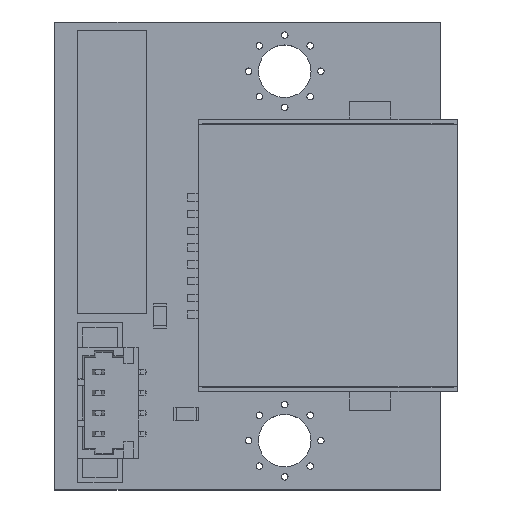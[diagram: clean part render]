
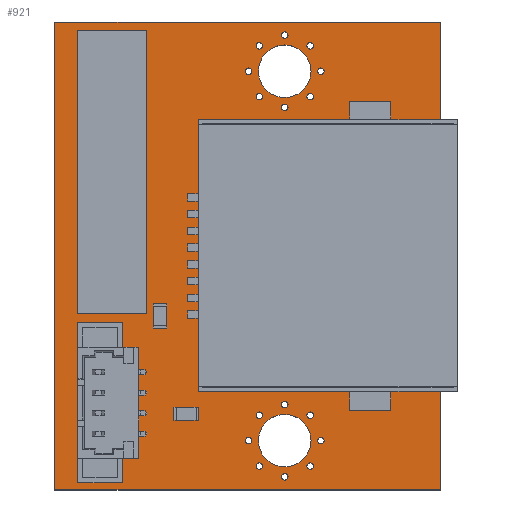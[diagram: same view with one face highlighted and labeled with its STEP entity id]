
A CAD part, top view. The second image highlights one B-rep face of the part: STEP entity #921.
In plain terms, the highlighted planar face has unit normal (0, 0, 1).
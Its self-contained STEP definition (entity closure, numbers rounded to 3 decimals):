
#72 = VERTEX_POINT('',#73);
#73 = CARTESIAN_POINT('',(0.,0.,1.517));
#79 = EDGE_CURVE('',#72,#80,#82,.T.);
#80 = VERTEX_POINT('',#81);
#81 = CARTESIAN_POINT('',(23.5,0.,1.517));
#82 = LINE('',#83,#84);
#83 = CARTESIAN_POINT('',(0.,0.,1.517));
#84 = VECTOR('',#85,1.);
#85 = DIRECTION('',(1.,0.,0.));
#110 = EDGE_CURVE('',#80,#111,#113,.T.);
#111 = VERTEX_POINT('',#112);
#112 = CARTESIAN_POINT('',(23.5,28.5,1.517));
#113 = LINE('',#114,#115);
#114 = CARTESIAN_POINT('',(23.5,0.,1.517));
#115 = VECTOR('',#116,1.);
#116 = DIRECTION('',(0.,1.,0.));
#141 = EDGE_CURVE('',#111,#142,#144,.T.);
#142 = VERTEX_POINT('',#143);
#143 = CARTESIAN_POINT('',(0.,28.5,1.517));
#144 = LINE('',#145,#146);
#145 = CARTESIAN_POINT('',(23.5,28.5,1.517));
#146 = VECTOR('',#147,1.);
#147 = DIRECTION('',(-1.,0.,0.));
#172 = EDGE_CURVE('',#142,#72,#173,.T.);
#173 = LINE('',#174,#175);
#174 = CARTESIAN_POINT('',(0.,28.5,1.517));
#175 = VECTOR('',#176,1.);
#176 = DIRECTION('',(0.,-1.,0.));
#196 = VERTEX_POINT('',#197);
#197 = CARTESIAN_POINT('',(12.65,1.45,1.517));
#203 = EDGE_CURVE('',#196,#196,#204,.T.);
#204 = CIRCLE('',#205,0.2);
#205 = AXIS2_PLACEMENT_3D('',#206,#207,#208);
#206 = CARTESIAN_POINT('',(12.45,1.45,1.517));
#207 = DIRECTION('',(0.,0.,1.));
#208 = DIRECTION('',(1.,0.,-0.));
#229 = VERTEX_POINT('',#230);
#230 = CARTESIAN_POINT('',(12.,3.,1.517));
#236 = EDGE_CURVE('',#229,#229,#237,.T.);
#237 = CIRCLE('',#238,0.2);
#238 = AXIS2_PLACEMENT_3D('',#239,#240,#241);
#239 = CARTESIAN_POINT('',(11.8,3.,1.517));
#240 = DIRECTION('',(0.,0.,1.));
#241 = DIRECTION('',(1.,0.,-0.));
#262 = VERTEX_POINT('',#263);
#263 = CARTESIAN_POINT('',(15.6,3.,1.517));
#269 = EDGE_CURVE('',#262,#262,#270,.T.);
#270 = CIRCLE('',#271,1.6);
#271 = AXIS2_PLACEMENT_3D('',#272,#273,#274);
#272 = CARTESIAN_POINT('',(14.,3.,1.517));
#273 = DIRECTION('',(0.,0.,1.));
#274 = DIRECTION('',(1.,0.,-0.));
#295 = VERTEX_POINT('',#296);
#296 = CARTESIAN_POINT('',(12.65,4.55,1.517));
#302 = EDGE_CURVE('',#295,#295,#303,.T.);
#303 = CIRCLE('',#304,0.2);
#304 = AXIS2_PLACEMENT_3D('',#305,#306,#307);
#305 = CARTESIAN_POINT('',(12.45,4.55,1.517));
#306 = DIRECTION('',(0.,0.,1.));
#307 = DIRECTION('',(1.,0.,-0.));
#328 = VERTEX_POINT('',#329);
#329 = CARTESIAN_POINT('',(14.2,5.2,1.517));
#335 = EDGE_CURVE('',#328,#328,#336,.T.);
#336 = CIRCLE('',#337,0.2);
#337 = AXIS2_PLACEMENT_3D('',#338,#339,#340);
#338 = CARTESIAN_POINT('',(14.,5.2,1.517));
#339 = DIRECTION('',(0.,0.,1.));
#340 = DIRECTION('',(1.,0.,-0.));
#361 = VERTEX_POINT('',#362);
#362 = CARTESIAN_POINT('',(12.65,23.95,1.517));
#368 = EDGE_CURVE('',#361,#361,#369,.T.);
#369 = CIRCLE('',#370,0.2);
#370 = AXIS2_PLACEMENT_3D('',#371,#372,#373);
#371 = CARTESIAN_POINT('',(12.45,23.95,1.517));
#372 = DIRECTION('',(0.,0.,1.));
#373 = DIRECTION('',(1.,0.,-0.));
#394 = VERTEX_POINT('',#395);
#395 = CARTESIAN_POINT('',(12.,25.5,1.517));
#401 = EDGE_CURVE('',#394,#394,#402,.T.);
#402 = CIRCLE('',#403,0.2);
#403 = AXIS2_PLACEMENT_3D('',#404,#405,#406);
#404 = CARTESIAN_POINT('',(11.8,25.5,1.517));
#405 = DIRECTION('',(0.,0.,1.));
#406 = DIRECTION('',(1.,0.,-0.));
#427 = VERTEX_POINT('',#428);
#428 = CARTESIAN_POINT('',(14.2,23.3,1.517));
#434 = EDGE_CURVE('',#427,#427,#435,.T.);
#435 = CIRCLE('',#436,0.2);
#436 = AXIS2_PLACEMENT_3D('',#437,#438,#439);
#437 = CARTESIAN_POINT('',(14.,23.3,1.517));
#438 = DIRECTION('',(0.,0.,1.));
#439 = DIRECTION('',(1.,0.,-0.));
#460 = VERTEX_POINT('',#461);
#461 = CARTESIAN_POINT('',(12.65,27.05,1.517));
#467 = EDGE_CURVE('',#460,#460,#468,.T.);
#468 = CIRCLE('',#469,0.2);
#469 = AXIS2_PLACEMENT_3D('',#470,#471,#472);
#470 = CARTESIAN_POINT('',(12.45,27.05,1.517));
#471 = DIRECTION('',(0.,0.,1.));
#472 = DIRECTION('',(1.,0.,-0.));
#493 = VERTEX_POINT('',#494);
#494 = CARTESIAN_POINT('',(15.6,25.5,1.517));
#500 = EDGE_CURVE('',#493,#493,#501,.T.);
#501 = CIRCLE('',#502,1.6);
#502 = AXIS2_PLACEMENT_3D('',#503,#504,#505);
#503 = CARTESIAN_POINT('',(14.,25.5,1.517));
#504 = DIRECTION('',(0.,0.,1.));
#505 = DIRECTION('',(1.,0.,-0.));
#526 = VERTEX_POINT('',#527);
#527 = CARTESIAN_POINT('',(14.2,0.8,1.517));
#533 = EDGE_CURVE('',#526,#526,#534,.T.);
#534 = CIRCLE('',#535,0.2);
#535 = AXIS2_PLACEMENT_3D('',#536,#537,#538);
#536 = CARTESIAN_POINT('',(14.,0.8,1.517));
#537 = DIRECTION('',(0.,0.,1.));
#538 = DIRECTION('',(1.,0.,-0.));
#559 = VERTEX_POINT('',#560);
#560 = CARTESIAN_POINT('',(15.75,1.45,1.517));
#566 = EDGE_CURVE('',#559,#559,#567,.T.);
#567 = CIRCLE('',#568,0.2);
#568 = AXIS2_PLACEMENT_3D('',#569,#570,#571);
#569 = CARTESIAN_POINT('',(15.55,1.45,1.517));
#570 = DIRECTION('',(0.,0.,1.));
#571 = DIRECTION('',(1.,0.,-0.));
#592 = VERTEX_POINT('',#593);
#593 = CARTESIAN_POINT('',(16.4,3.,1.517));
#599 = EDGE_CURVE('',#592,#592,#600,.T.);
#600 = CIRCLE('',#601,0.2);
#601 = AXIS2_PLACEMENT_3D('',#602,#603,#604);
#602 = CARTESIAN_POINT('',(16.2,3.,1.517));
#603 = DIRECTION('',(0.,0.,1.));
#604 = DIRECTION('',(1.,0.,-0.));
#625 = VERTEX_POINT('',#626);
#626 = CARTESIAN_POINT('',(15.75,4.55,1.517));
#632 = EDGE_CURVE('',#625,#625,#633,.T.);
#633 = CIRCLE('',#634,0.2);
#634 = AXIS2_PLACEMENT_3D('',#635,#636,#637);
#635 = CARTESIAN_POINT('',(15.55,4.55,1.517));
#636 = DIRECTION('',(0.,0.,1.));
#637 = DIRECTION('',(1.,0.,-0.));
#658 = VERTEX_POINT('',#659);
#659 = CARTESIAN_POINT('',(20.915,7.9,1.517));
#665 = EDGE_CURVE('',#658,#658,#666,.T.);
#666 = CIRCLE('',#667,1.615);
#667 = AXIS2_PLACEMENT_3D('',#668,#669,#670);
#668 = CARTESIAN_POINT('',(19.3,7.9,1.517));
#669 = DIRECTION('',(0.,0.,1.));
#670 = DIRECTION('',(1.,0.,-0.));
#691 = VERTEX_POINT('',#692);
#692 = CARTESIAN_POINT('',(15.75,23.95,1.517));
#698 = EDGE_CURVE('',#691,#691,#699,.T.);
#699 = CIRCLE('',#700,0.2);
#700 = AXIS2_PLACEMENT_3D('',#701,#702,#703);
#701 = CARTESIAN_POINT('',(15.55,23.95,1.517));
#702 = DIRECTION('',(0.,0.,1.));
#703 = DIRECTION('',(1.,0.,-0.));
#724 = VERTEX_POINT('',#725);
#725 = CARTESIAN_POINT('',(14.2,27.7,1.517));
#731 = EDGE_CURVE('',#724,#724,#732,.T.);
#732 = CIRCLE('',#733,0.2);
#733 = AXIS2_PLACEMENT_3D('',#734,#735,#736);
#734 = CARTESIAN_POINT('',(14.,27.7,1.517));
#735 = DIRECTION('',(0.,0.,1.));
#736 = DIRECTION('',(1.,0.,-0.));
#757 = VERTEX_POINT('',#758);
#758 = CARTESIAN_POINT('',(20.915,20.6,1.517));
#764 = EDGE_CURVE('',#757,#757,#765,.T.);
#765 = CIRCLE('',#766,1.615);
#766 = AXIS2_PLACEMENT_3D('',#767,#768,#769);
#767 = CARTESIAN_POINT('',(19.3,20.6,1.517));
#768 = DIRECTION('',(0.,0.,1.));
#769 = DIRECTION('',(1.,0.,-0.));
#790 = VERTEX_POINT('',#791);
#791 = CARTESIAN_POINT('',(15.75,27.05,1.517));
#797 = EDGE_CURVE('',#790,#790,#798,.T.);
#798 = CIRCLE('',#799,0.2);
#799 = AXIS2_PLACEMENT_3D('',#800,#801,#802);
#800 = CARTESIAN_POINT('',(15.55,27.05,1.517));
#801 = DIRECTION('',(0.,0.,1.));
#802 = DIRECTION('',(1.,0.,-0.));
#823 = VERTEX_POINT('',#824);
#824 = CARTESIAN_POINT('',(16.4,25.5,1.517));
#830 = EDGE_CURVE('',#823,#823,#831,.T.);
#831 = CIRCLE('',#832,0.2);
#832 = AXIS2_PLACEMENT_3D('',#833,#834,#835);
#833 = CARTESIAN_POINT('',(16.2,25.5,1.517));
#834 = DIRECTION('',(0.,0.,1.));
#835 = DIRECTION('',(1.,0.,-0.));
#921 = ADVANCED_FACE('',(#922,#928,#931,#934,#937,#940,#943,#946,#949,
    #952,#955,#958,#961,#964,#967,#970,#973,#976,#979,#982,#985),#988,
  .T.);
#922 = FACE_BOUND('',#923,.T.);
#923 = EDGE_LOOP('',(#924,#925,#926,#927));
#924 = ORIENTED_EDGE('',*,*,#79,.T.);
#925 = ORIENTED_EDGE('',*,*,#110,.T.);
#926 = ORIENTED_EDGE('',*,*,#141,.T.);
#927 = ORIENTED_EDGE('',*,*,#172,.T.);
#928 = FACE_BOUND('',#929,.T.);
#929 = EDGE_LOOP('',(#930));
#930 = ORIENTED_EDGE('',*,*,#203,.F.);
#931 = FACE_BOUND('',#932,.T.);
#932 = EDGE_LOOP('',(#933));
#933 = ORIENTED_EDGE('',*,*,#236,.F.);
#934 = FACE_BOUND('',#935,.T.);
#935 = EDGE_LOOP('',(#936));
#936 = ORIENTED_EDGE('',*,*,#269,.F.);
#937 = FACE_BOUND('',#938,.T.);
#938 = EDGE_LOOP('',(#939));
#939 = ORIENTED_EDGE('',*,*,#302,.F.);
#940 = FACE_BOUND('',#941,.T.);
#941 = EDGE_LOOP('',(#942));
#942 = ORIENTED_EDGE('',*,*,#335,.F.);
#943 = FACE_BOUND('',#944,.T.);
#944 = EDGE_LOOP('',(#945));
#945 = ORIENTED_EDGE('',*,*,#368,.F.);
#946 = FACE_BOUND('',#947,.T.);
#947 = EDGE_LOOP('',(#948));
#948 = ORIENTED_EDGE('',*,*,#401,.F.);
#949 = FACE_BOUND('',#950,.T.);
#950 = EDGE_LOOP('',(#951));
#951 = ORIENTED_EDGE('',*,*,#434,.F.);
#952 = FACE_BOUND('',#953,.T.);
#953 = EDGE_LOOP('',(#954));
#954 = ORIENTED_EDGE('',*,*,#467,.F.);
#955 = FACE_BOUND('',#956,.T.);
#956 = EDGE_LOOP('',(#957));
#957 = ORIENTED_EDGE('',*,*,#500,.F.);
#958 = FACE_BOUND('',#959,.T.);
#959 = EDGE_LOOP('',(#960));
#960 = ORIENTED_EDGE('',*,*,#533,.F.);
#961 = FACE_BOUND('',#962,.T.);
#962 = EDGE_LOOP('',(#963));
#963 = ORIENTED_EDGE('',*,*,#566,.F.);
#964 = FACE_BOUND('',#965,.T.);
#965 = EDGE_LOOP('',(#966));
#966 = ORIENTED_EDGE('',*,*,#599,.F.);
#967 = FACE_BOUND('',#968,.T.);
#968 = EDGE_LOOP('',(#969));
#969 = ORIENTED_EDGE('',*,*,#632,.F.);
#970 = FACE_BOUND('',#971,.T.);
#971 = EDGE_LOOP('',(#972));
#972 = ORIENTED_EDGE('',*,*,#665,.F.);
#973 = FACE_BOUND('',#974,.T.);
#974 = EDGE_LOOP('',(#975));
#975 = ORIENTED_EDGE('',*,*,#698,.F.);
#976 = FACE_BOUND('',#977,.T.);
#977 = EDGE_LOOP('',(#978));
#978 = ORIENTED_EDGE('',*,*,#731,.F.);
#979 = FACE_BOUND('',#980,.T.);
#980 = EDGE_LOOP('',(#981));
#981 = ORIENTED_EDGE('',*,*,#764,.F.);
#982 = FACE_BOUND('',#983,.T.);
#983 = EDGE_LOOP('',(#984));
#984 = ORIENTED_EDGE('',*,*,#797,.F.);
#985 = FACE_BOUND('',#986,.T.);
#986 = EDGE_LOOP('',(#987));
#987 = ORIENTED_EDGE('',*,*,#830,.F.);
#988 = PLANE('',#989);
#989 = AXIS2_PLACEMENT_3D('',#990,#991,#992);
#990 = CARTESIAN_POINT('',(11.75,14.25,1.517));
#991 = DIRECTION('',(0.,0.,1.));
#992 = DIRECTION('',(1.,0.,-0.));
